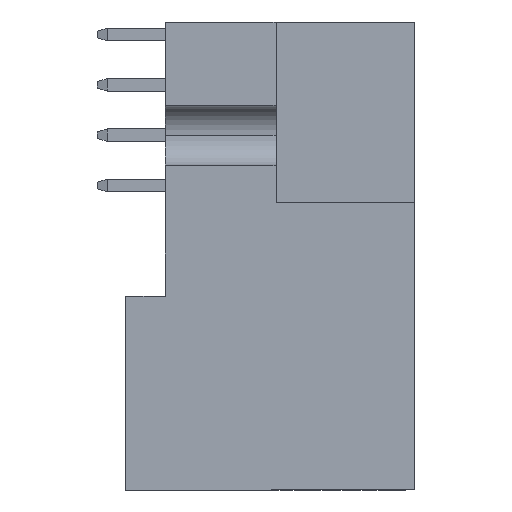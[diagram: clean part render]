
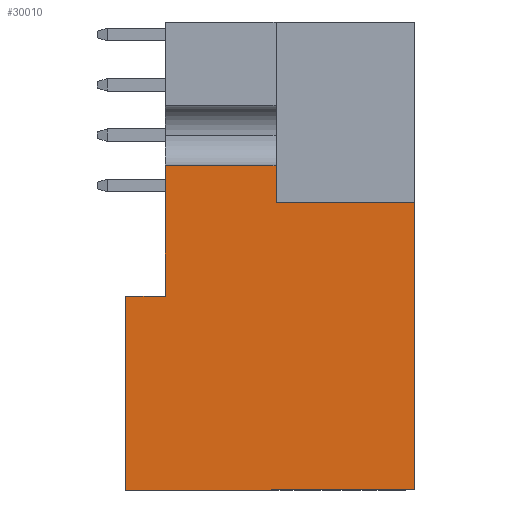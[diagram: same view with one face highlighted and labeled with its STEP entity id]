
A CAD part, front view. The second image highlights one B-rep face of the part: STEP entity #30010.
In plain terms, the highlighted planar face has unit normal (0, -1, 0).
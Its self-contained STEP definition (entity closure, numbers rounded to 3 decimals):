
#164 = VECTOR ( 'NONE', #14634, 1000. ) ;
#327 = VECTOR ( 'NONE', #21389, 1000. ) ;
#1141 = VECTOR ( 'NONE', #27394, 1000. ) ;
#1357 = VECTOR ( 'NONE', #24018, 1000. ) ;
#1415 = VECTOR ( 'NONE', #23784, 1000. ) ;
#2350 = ORIENTED_EDGE ( 'NONE', *, *, #19529, .T. ) ;
#2359 = ORIENTED_EDGE ( 'NONE', *, *, #23686, .F. ) ;
#2388 = ORIENTED_EDGE ( 'NONE', *, *, #23614, .F. ) ;
#2417 = ORIENTED_EDGE ( 'NONE', *, *, #19504, .T. ) ;
#2442 = ORIENTED_EDGE ( 'NONE', *, *, #23463, .F. ) ;
#2446 = ORIENTED_EDGE ( 'NONE', *, *, #19119, .F. ) ;
#2452 = ORIENTED_EDGE ( 'NONE', *, *, #19117, .F. ) ;
#2453 = ORIENTED_EDGE ( 'NONE', *, *, #19408, .F. ) ;
#4978 = VECTOR ( 'NONE', #22803, 1000. ) ;
#4980 = VECTOR ( 'NONE', #22821, 1000. ) ;
#8411 = EDGE_LOOP ( 'NONE', ( #2417, #2350, #2359, #2388, #2442, #2446, #2453, #2452 ) ) ;
#10364 = PLANE ( 'NONE',  #17803 ) ;
#10379 = FACE_OUTER_BOUND ( 'NONE', #8411, .T. ) ;
#10389 = CARTESIAN_POINT ( 'NONE',  ( 1.35, -59.908, -23.411 ) ) ;
#10390 = DIRECTION ( 'NONE',  ( 0., 1., 0. ) ) ;
#10391 = DIRECTION ( 'NONE',  ( -1., 0., 0. ) ) ;
#14630 = LINE ( 'NONE', #14633, #164 ) ;
#14633 = CARTESIAN_POINT ( 'NONE',  ( -11.22, -59.908, -9.476 ) ) ;
#14634 = DIRECTION ( 'NONE',  ( 0., 0., 1. ) ) ;
#17185 = VECTOR ( 'NONE', #21624, 1000. ) ;
#17803 = AXIS2_PLACEMENT_3D ( 'NONE', #10389, #10390, #10391 ) ;
#19117 = EDGE_CURVE ( 'NONE', #34443, #34150, #22801, .T. ) ;
#19119 = EDGE_CURVE ( 'NONE', #34567, #34197, #22819, .T. ) ;
#19408 = EDGE_CURVE ( 'NONE', #34150, #34567, #27392, .T. ) ;
#19504 = EDGE_CURVE ( 'NONE', #34443, #34772, #23765, .T. ) ;
#19529 = EDGE_CURVE ( 'NONE', #34772, #34192, #24012, .T. ) ;
#20024 = CARTESIAN_POINT ( 'NONE',  ( -11.22, -59.908, -7.036 ) ) ;
#20172 = CARTESIAN_POINT ( 'NONE',  ( 1.35, -59.908, -8.881 ) ) ;
#20189 = CARTESIAN_POINT ( 'NONE',  ( -5.64, -59.908, -7.036 ) ) ;
#20342 = CARTESIAN_POINT ( 'NONE',  ( -13.23, -59.908, -23.411 ) ) ;
#20380 = CARTESIAN_POINT ( 'NONE',  ( -5.64, -59.908, -8.881 ) ) ;
#20385 = CARTESIAN_POINT ( 'NONE',  ( -11.22, -59.908, -13.631 ) ) ;
#20599 = CARTESIAN_POINT ( 'NONE',  ( 1.35, -59.908, -23.411 ) ) ;
#20708 = CARTESIAN_POINT ( 'NONE',  ( -13.23, -59.908, -13.631 ) ) ;
#21387 = LINE ( 'NONE', #21388, #327 ) ;
#21388 = CARTESIAN_POINT ( 'NONE',  ( 1.35, -59.908, -7.036 ) ) ;
#21389 = DIRECTION ( 'NONE',  ( 1., 0., 0. ) ) ;
#21622 = LINE ( 'NONE', #21623, #17185 ) ;
#21623 = CARTESIAN_POINT ( 'NONE',  ( -5.64, -59.908, -23.411 ) ) ;
#21624 = DIRECTION ( 'NONE',  ( 0., 0., -1. ) ) ;
#22801 = LINE ( 'NONE', #22802, #4978 ) ;
#22802 = CARTESIAN_POINT ( 'NONE',  ( 1.35, -59.908, -23.411 ) ) ;
#22803 = DIRECTION ( 'NONE',  ( -1., 0., 0. ) ) ;
#22819 = LINE ( 'NONE', #22820, #4980 ) ;
#22820 = CARTESIAN_POINT ( 'NONE',  ( 1.35, -59.908, -13.631 ) ) ;
#22821 = DIRECTION ( 'NONE',  ( 1., 0., 0. ) ) ;
#23463 = EDGE_CURVE ( 'NONE', #34197, #34681, #14630, .T. ) ;
#23614 = EDGE_CURVE ( 'NONE', #34681, #34784, #21387, .T. ) ;
#23686 = EDGE_CURVE ( 'NONE', #34784, #34192, #21622, .T. ) ;
#23765 = LINE ( 'NONE', #23783, #1415 ) ;
#23783 = CARTESIAN_POINT ( 'NONE',  ( 1.35, -59.908, -23.411 ) ) ;
#23784 = DIRECTION ( 'NONE',  ( 0., 0., 1. ) ) ;
#24000 = CARTESIAN_POINT ( 'NONE',  ( -5.64, -59.908, -8.881 ) ) ;
#24012 = LINE ( 'NONE', #24000, #1357 ) ;
#24018 = DIRECTION ( 'NONE',  ( -1., 0., 0. ) ) ;
#27392 = LINE ( 'NONE', #27393, #1141 ) ;
#27393 = CARTESIAN_POINT ( 'NONE',  ( -13.23, -59.908, -23.411 ) ) ;
#27394 = DIRECTION ( 'NONE',  ( 0., 0., 1. ) ) ;
#30010 = ADVANCED_FACE ( 'NONE', ( #10379 ), #10364, .F. ) ;
#34150 = VERTEX_POINT ( 'NONE', #20342 ) ;
#34192 = VERTEX_POINT ( 'NONE', #20380 ) ;
#34197 = VERTEX_POINT ( 'NONE', #20385 ) ;
#34443 = VERTEX_POINT ( 'NONE', #20599 ) ;
#34567 = VERTEX_POINT ( 'NONE', #20708 ) ;
#34681 = VERTEX_POINT ( 'NONE', #20024 ) ;
#34772 = VERTEX_POINT ( 'NONE', #20172 ) ;
#34784 = VERTEX_POINT ( 'NONE', #20189 ) ;
